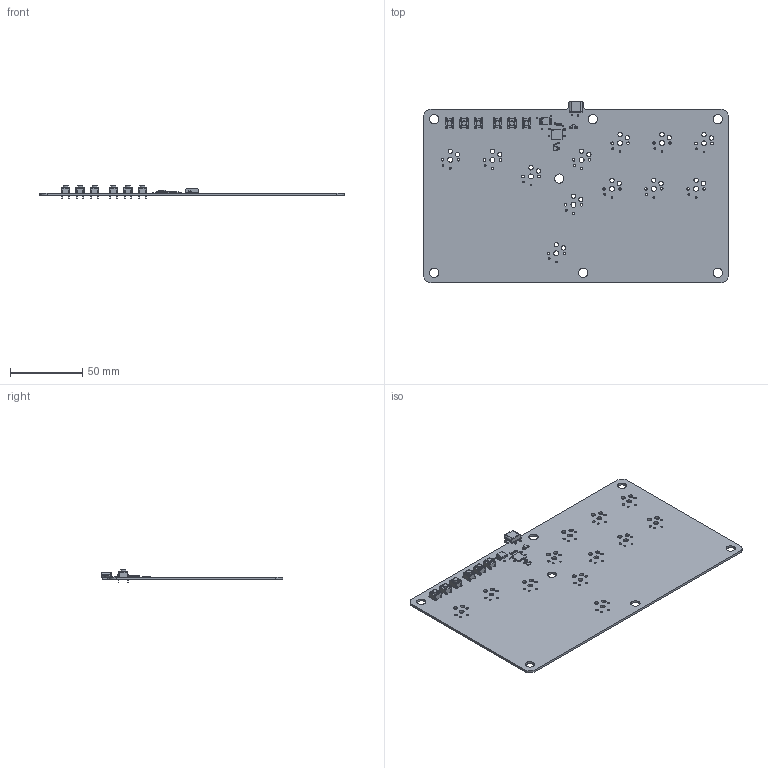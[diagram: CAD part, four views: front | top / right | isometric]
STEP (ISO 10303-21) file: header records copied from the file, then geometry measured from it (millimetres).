
FILE_DESCRIPTION(('KiCad electronic assembly'),'2;1');
FILE_NAME('Flatbox-rev4.step','2021-08-30T19:22:28',('An Author'),( 'A Company'),'Open CASCADE STEP processor 6.9', 'KiCad to STEP converter','Unknown');
FILE_SCHEMA(('AUTOMOTIVE_DESIGN { 1 0 10303 214 1 1 1 1 }'));
Length unit declared in the file: millimetre
Products named in the file (18): Open CASCADE STEP translator 6.9 1; R_0402_1005Metric; SOLID; Crystal_SMD_3225-4Pin_3.2x2.5mm; QFN-56-1EP_7x7mm_P0.4mm_EP5.6x5.6mm; SOIC-8_5.275x5.275mm_P1.27mm; SOT-23-5; C_0402_1005Metric; SW_PUSH_6mm_H5mm; HRO__TYPE-C-31-M-12; COMPOUND
Assembly tree (43 placements, depth 3):
  Open CASCADE STEP translator 6.9 1
    R_0402_1005Metric  x7
      SOLID
    Crystal_SMD_3225-4Pin_3.2x2.5mm
      SOLID
    QFN-56-1EP_7x7mm_P0.4mm_EP5.6x5.6mm
      SOLID
    SOIC-8_5.275x5.275mm_P1.27mm
      SOLID
    SOT-23-5
      SOLID
    C_0402_1005Metric  x16
      SOLID
    SW_PUSH_6mm_H5mm  x6
      SOLID
    HRO__TYPE-C-31-M-12
      SOLID
    COMPOUND
Bounding box: 210 x 125.5 x 8.5 mm (x, y, z)
Volume: 40478.8 mm3; surface area: 53654.6 mm2
Topology: 35 solids, 35 shells, 2197 faces, 5918 edges, 3862 vertices
Faces by surface type: plane 1342, cylinder 778, bspline 61, cone 10, torus 6
Full cylindrical faces by diameter (mm): 0.35 x9, 0.5 x3, 0.6 x1, 0.65 x2, 1 x24, 1.1 x24, 1.27 x24, 1.702 x24, 3 x24, 3.429 x12, 3.5 x6, 6.4 x7
Entity records: 83226 total; most frequent: CARTESIAN_POINT 15854, DIRECTION 11491, LINE 7480, VECTOR 7480, ORIENTED_EDGE 6090, PCURVE 6090, DEFINITIONAL_REPRESENTATION 6090, EDGE_CURVE 3045
